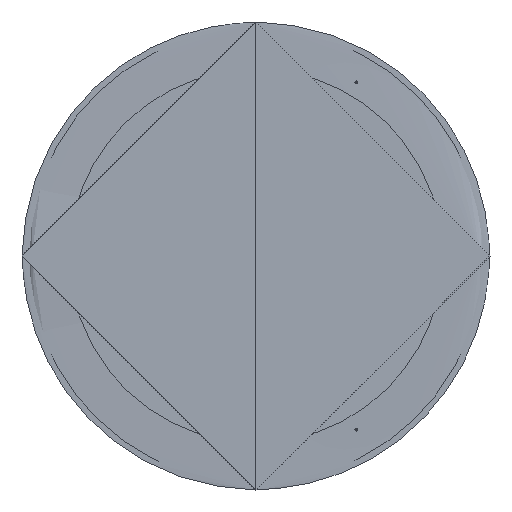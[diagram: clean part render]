
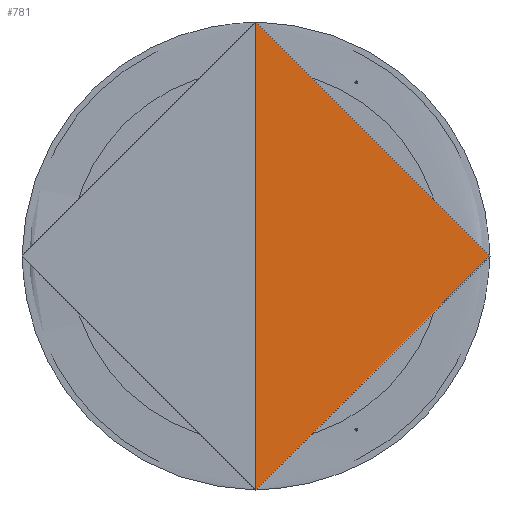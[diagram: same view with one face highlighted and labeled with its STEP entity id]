
A CAD part, front view. The second image highlights one B-rep face of the part: STEP entity #781.
In plain terms, the highlighted free-form (B-spline) face has degree [2, 2] with [5, 9] control points.
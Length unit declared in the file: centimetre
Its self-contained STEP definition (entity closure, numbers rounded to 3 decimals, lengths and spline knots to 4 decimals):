
#101=(
BOUNDED_SURFACE()
B_SPLINE_SURFACE(2,2,((#17678,#17679,#17680,#17681,#17682,#17683,#17684,
#17685,#17686),(#17687,#17688,#17689,#17690,#17691,#17692,#17693,#17694,
#17695),(#17696,#17697,#17698,#17699,#17700,#17701,#17702,#17703,#17704),
(#17705,#17706,#17707,#17708,#17709,#17710,#17711,#17712,#17713),(#17714,
#17715,#17716,#17717,#17718,#17719,#17720,#17721,#17722)),.UNSPECIFIED.,
 .F.,.F.,.F.)
B_SPLINE_SURFACE_WITH_KNOTS((3,2,3),(3,2,2,2,3),(1099.5574,1649.3361,
2199.1149),(0.,1.5708,3.1416,4.7124,
6.2832),.UNSPECIFIED.)
GEOMETRIC_REPRESENTATION_ITEM()
RATIONAL_B_SPLINE_SURFACE(((1.,0.707,1.,0.707,1.,
0.707,1.,0.707,1.),(0.707,0.5,0.707,
0.5,0.707,0.5,0.707,0.5,0.707),(1.,
0.707,1.,0.707,1.,0.707,1.,0.707,
1.),(0.707,0.5,0.707,0.5,0.707,0.5,
0.707,0.5,0.707),(1.,0.707,1.,0.707,
1.,0.707,1.,0.707,1.)))
REPRESENTATION_ITEM('')
SURFACE()
);
#781=ADVANCED_FACE('',(#1347),#101,.T.);
#1347=FACE_OUTER_BOUND('',#2009,.T.);
#2009=EDGE_LOOP('',(#4909,#4910,#4911,#4912,#4913));
#4909=ORIENTED_EDGE('',*,*,#6448,.T.);
#4910=ORIENTED_EDGE('',*,*,#6418,.T.);
#4911=ORIENTED_EDGE('',*,*,#6452,.F.);
#4912=ORIENTED_EDGE('',*,*,#6449,.F.);
#4913=ORIENTED_EDGE('',*,*,#6447,.F.);
#6418=EDGE_CURVE('',#8947,#8946,#7953,.T.);
#6447=EDGE_CURVE('',#8966,#8967,#7976,.T.);
#6448=EDGE_CURVE('',#8966,#8947,#7977,.T.);
#6449=EDGE_CURVE('',#8967,#8968,#7978,.T.);
#6452=EDGE_CURVE('',#8968,#8946,#7980,.T.);
#7953=(
BOUNDED_CURVE()
B_SPLINE_CURVE(2,(#17829,#17830,#17831),.UNSPECIFIED.,.F.,.F.)
B_SPLINE_CURVE_WITH_KNOTS((3,3),(1.5708,3.1416),
 .UNSPECIFIED.)
CURVE()
GEOMETRIC_REPRESENTATION_ITEM()
RATIONAL_B_SPLINE_CURVE((1.,0.707,1.))
REPRESENTATION_ITEM('')
);
#7976=(
BOUNDED_CURVE()
B_SPLINE_CURVE(2,(#17938,#17939,#17940),.UNSPECIFIED.,.F.,.F.)
B_SPLINE_CURVE_WITH_KNOTS((3,3),(1.5708,3.1416),
 .UNSPECIFIED.)
CURVE()
GEOMETRIC_REPRESENTATION_ITEM()
RATIONAL_B_SPLINE_CURVE((1.,0.707,1.))
REPRESENTATION_ITEM('')
);
#7977=(
BOUNDED_CURVE()
B_SPLINE_CURVE(2,(#17941,#17942,#17943,#17944,#17945),.UNSPECIFIED.,.F.,
 .F.)
B_SPLINE_CURVE_WITH_KNOTS((3,2,3),(2192.8317,2741.0396,3289.2475),
 .UNSPECIFIED.)
CURVE()
GEOMETRIC_REPRESENTATION_ITEM()
RATIONAL_B_SPLINE_CURVE((1.,0.707,1.,0.707,1.))
REPRESENTATION_ITEM('')
);
#7978=(
BOUNDED_CURVE()
B_SPLINE_CURVE(2,(#17946,#17947,#17948),.UNSPECIFIED.,.F.,.F.)
B_SPLINE_CURVE_WITH_KNOTS((3,3),(1649.3361,2199.1149),
 .UNSPECIFIED.)
CURVE()
GEOMETRIC_REPRESENTATION_ITEM()
RATIONAL_B_SPLINE_CURVE((1.,0.707,1.))
REPRESENTATION_ITEM('')
);
#7980=(
BOUNDED_CURVE()
B_SPLINE_CURVE(2,(#17954,#17955,#17956),.UNSPECIFIED.,.F.,.F.)
B_SPLINE_CURVE_WITH_KNOTS((3,3),(2199.1149,2748.8936),
 .UNSPECIFIED.)
CURVE()
GEOMETRIC_REPRESENTATION_ITEM()
RATIONAL_B_SPLINE_CURVE((1.,0.707,1.))
REPRESENTATION_ITEM('')
);
#8946=VERTEX_POINT('',#17794);
#8947=VERTEX_POINT('',#17795);
#8966=VERTEX_POINT('',#17814);
#8967=VERTEX_POINT('',#17815);
#8968=VERTEX_POINT('',#17816);
#17678=CARTESIAN_POINT('',(643.6223,-517.7569,815.2095));
#17679=CARTESIAN_POINT('',(643.6223,-518.7569,815.2095));
#17680=CARTESIAN_POINT('',(643.6223,-518.7569,816.2095));
#17681=CARTESIAN_POINT('',(643.6223,-518.7569,817.2095));
#17682=CARTESIAN_POINT('',(643.6223,-517.7569,817.2095));
#17683=CARTESIAN_POINT('',(643.6223,-516.7569,817.2095));
#17684=CARTESIAN_POINT('',(643.6223,-516.7569,816.2095));
#17685=CARTESIAN_POINT('',(643.6223,-516.7569,815.2095));
#17686=CARTESIAN_POINT('',(643.6223,-517.7569,815.2095));
#17687=CARTESIAN_POINT('',(991.6223,-517.7569,815.2095));
#17688=CARTESIAN_POINT('',(991.6223,-518.7569,815.2095));
#17689=CARTESIAN_POINT('',(992.6223,-518.7569,816.2095));
#17690=CARTESIAN_POINT('',(993.6223,-518.7569,817.2095));
#17691=CARTESIAN_POINT('',(993.6223,-517.7569,817.2095));
#17692=CARTESIAN_POINT('',(993.6223,-516.7569,817.2095));
#17693=CARTESIAN_POINT('',(992.6223,-516.7569,816.2095));
#17694=CARTESIAN_POINT('',(991.6223,-516.7569,815.2095));
#17695=CARTESIAN_POINT('',(991.6223,-517.7569,815.2095));
#17696=CARTESIAN_POINT('',(991.6223,-517.7569,467.2095));
#17697=CARTESIAN_POINT('',(991.6223,-518.7569,467.2095));
#17698=CARTESIAN_POINT('',(992.6223,-518.7569,467.2095));
#17699=CARTESIAN_POINT('',(993.6223,-518.7569,467.2095));
#17700=CARTESIAN_POINT('',(993.6223,-517.7569,467.2095));
#17701=CARTESIAN_POINT('',(993.6223,-516.7569,467.2095));
#17702=CARTESIAN_POINT('',(992.6223,-516.7569,467.2095));
#17703=CARTESIAN_POINT('',(991.6223,-516.7569,467.2095));
#17704=CARTESIAN_POINT('',(991.6223,-517.7569,467.2095));
#17705=CARTESIAN_POINT('',(991.6223,-517.7569,119.2095));
#17706=CARTESIAN_POINT('',(991.6223,-518.7569,119.2095));
#17707=CARTESIAN_POINT('',(992.6223,-518.7569,118.2095));
#17708=CARTESIAN_POINT('',(993.6223,-518.7569,117.2095));
#17709=CARTESIAN_POINT('',(993.6223,-517.7569,117.2095));
#17710=CARTESIAN_POINT('',(993.6223,-516.7569,117.2095));
#17711=CARTESIAN_POINT('',(992.6223,-516.7569,118.2095));
#17712=CARTESIAN_POINT('',(991.6223,-516.7569,119.2095));
#17713=CARTESIAN_POINT('',(991.6223,-517.7569,119.2095));
#17714=CARTESIAN_POINT('',(643.6223,-517.7569,119.2095));
#17715=CARTESIAN_POINT('',(643.6223,-518.7569,119.2095));
#17716=CARTESIAN_POINT('',(643.6223,-518.7569,118.2095));
#17717=CARTESIAN_POINT('',(643.6223,-518.7569,117.2095));
#17718=CARTESIAN_POINT('',(643.6223,-517.7569,117.2095));
#17719=CARTESIAN_POINT('',(643.6223,-516.7569,117.2095));
#17720=CARTESIAN_POINT('',(643.6223,-516.7569,118.2095));
#17721=CARTESIAN_POINT('',(643.6223,-516.7569,119.2095));
#17722=CARTESIAN_POINT('',(643.6223,-517.7569,119.2095));
#17794=CARTESIAN_POINT('',(643.6223,-517.7569,117.2095));
#17795=CARTESIAN_POINT('',(643.6223,-518.7569,118.2095));
#17814=CARTESIAN_POINT('',(643.6223,-518.7569,816.2095));
#17815=CARTESIAN_POINT('',(643.6223,-517.7569,817.2095));
#17816=CARTESIAN_POINT('',(993.6223,-517.7569,467.2095));
#17829=CARTESIAN_POINT('',(643.6223,-518.7569,118.2095));
#17830=CARTESIAN_POINT('',(643.6223,-518.7569,117.2095));
#17831=CARTESIAN_POINT('',(643.6223,-517.7569,117.2095));
#17938=CARTESIAN_POINT('',(643.6223,-518.7569,816.2095));
#17939=CARTESIAN_POINT('',(643.6223,-518.7569,817.2095));
#17940=CARTESIAN_POINT('',(643.6223,-517.7569,817.2095));
#17941=CARTESIAN_POINT('',(643.6223,-518.7569,816.2095));
#17942=CARTESIAN_POINT('',(992.6223,-518.7569,816.2095));
#17943=CARTESIAN_POINT('',(992.6223,-518.7569,467.2095));
#17944=CARTESIAN_POINT('',(992.6223,-518.7569,118.2095));
#17945=CARTESIAN_POINT('',(643.6223,-518.7569,118.2095));
#17946=CARTESIAN_POINT('',(643.6223,-517.7569,817.2095));
#17947=CARTESIAN_POINT('',(993.6223,-517.7569,817.2095));
#17948=CARTESIAN_POINT('',(993.6223,-517.7569,467.2095));
#17954=CARTESIAN_POINT('',(993.6223,-517.7569,467.2095));
#17955=CARTESIAN_POINT('',(993.6223,-517.7569,117.2095));
#17956=CARTESIAN_POINT('',(643.6223,-517.7569,117.2095));
